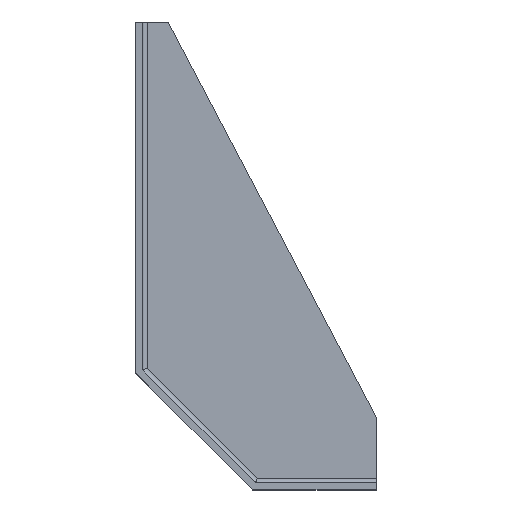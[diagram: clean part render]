
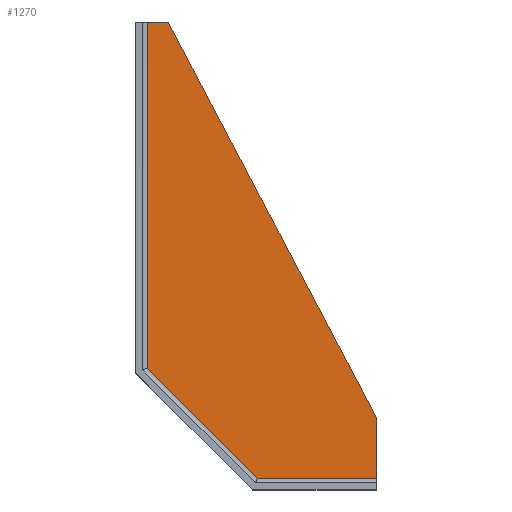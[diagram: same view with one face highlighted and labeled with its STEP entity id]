
A CAD part, top view. The second image highlights one B-rep face of the part: STEP entity #1270.
In plain terms, the highlighted planar face has unit normal (0, 0, 1).
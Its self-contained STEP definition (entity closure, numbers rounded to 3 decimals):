
#19 = VECTOR ( 'NONE', #870, 1000. ) ;
#36 = DIRECTION ( 'NONE',  ( -1., 0., 0. ) ) ;
#53 = CARTESIAN_POINT ( 'NONE',  ( -89., 200., 3. ) ) ;
#141 = EDGE_CURVE ( 'NONE', #865, #1192, #276, .T. ) ;
#156 = LINE ( 'NONE', #638, #1174 ) ;
#172 = LINE ( 'NONE', #1083, #579 ) ;
#173 = EDGE_LOOP ( 'NONE', ( #559, #1020, #453, #1133, #653, #708 ) ) ;
#175 = DIRECTION ( 'NONE',  ( 0., -1., 0. ) ) ;
#195 = DIRECTION ( 'NONE',  ( 0., 1., 0. ) ) ;
#274 = CARTESIAN_POINT ( 'NONE',  ( 0., 5., 3. ) ) ;
#276 = LINE ( 'NONE', #1196, #683 ) ;
#304 = DIRECTION ( 'NONE',  ( 1., 0., 0. ) ) ;
#313 = DIRECTION ( 'NONE',  ( -1., 0., 0. ) ) ;
#330 = CARTESIAN_POINT ( 'NONE',  ( -98., 52.071, 3. ) ) ;
#437 = LINE ( 'NONE', #53, #19 ) ;
#440 = AXIS2_PLACEMENT_3D ( 'NONE', #919, #808, #313 ) ;
#453 = ORIENTED_EDGE ( 'NONE', *, *, #555, .T. ) ;
#461 = VERTEX_POINT ( 'NONE', #961 ) ;
#512 = VERTEX_POINT ( 'NONE', #556 ) ;
#516 = PLANE ( 'NONE',  #440 ) ;
#555 = EDGE_CURVE ( 'NONE', #1192, #461, #172, .T. ) ;
#556 = CARTESIAN_POINT ( 'NONE',  ( -98., 200., 3. ) ) ;
#557 = VECTOR ( 'NONE', #175, 1000. ) ;
#559 = ORIENTED_EDGE ( 'NONE', *, *, #1112, .T. ) ;
#576 = FACE_OUTER_BOUND ( 'NONE', #173, .T. ) ;
#579 = VECTOR ( 'NONE', #195, 1000. ) ;
#638 = CARTESIAN_POINT ( 'NONE',  ( -103., 200., 3. ) ) ;
#653 = ORIENTED_EDGE ( 'NONE', *, *, #813, .T. ) ;
#676 = VERTEX_POINT ( 'NONE', #1095 ) ;
#683 = VECTOR ( 'NONE', #304, 1000. ) ;
#708 = ORIENTED_EDGE ( 'NONE', *, *, #1169, .T. ) ;
#766 = LINE ( 'NONE', #984, #557 ) ;
#808 = DIRECTION ( 'NONE',  ( 0., 0., -1. ) ) ;
#813 = EDGE_CURVE ( 'NONE', #676, #512, #156, .T. ) ;
#829 = LINE ( 'NONE', #1161, #1207 ) ;
#835 = VERTEX_POINT ( 'NONE', #330 ) ;
#865 = VERTEX_POINT ( 'NONE', #1026 ) ;
#870 = DIRECTION ( 'NONE',  ( -0.466, 0.885, 0. ) ) ;
#919 = CARTESIAN_POINT ( 'NONE',  ( 0., 0., 3. ) ) ;
#945 = EDGE_CURVE ( 'NONE', #461, #676, #437, .T. ) ;
#961 = CARTESIAN_POINT ( 'NONE',  ( 0., 31., 3. ) ) ;
#984 = CARTESIAN_POINT ( 'NONE',  ( -98., 51.243, 3. ) ) ;
#1020 = ORIENTED_EDGE ( 'NONE', *, *, #141, .T. ) ;
#1026 = CARTESIAN_POINT ( 'NONE',  ( -50.929, 5., 3. ) ) ;
#1083 = CARTESIAN_POINT ( 'NONE',  ( 0., 31., 3. ) ) ;
#1095 = CARTESIAN_POINT ( 'NONE',  ( -89., 200., 3. ) ) ;
#1112 = EDGE_CURVE ( 'NONE', #835, #865, #829, .T. ) ;
#1133 = ORIENTED_EDGE ( 'NONE', *, *, #945, .T. ) ;
#1161 = CARTESIAN_POINT ( 'NONE',  ( -50.343, 4.414, 3. ) ) ;
#1169 = EDGE_CURVE ( 'NONE', #512, #835, #766, .T. ) ;
#1174 = VECTOR ( 'NONE', #36, 1000. ) ;
#1192 = VERTEX_POINT ( 'NONE', #274 ) ;
#1196 = CARTESIAN_POINT ( 'NONE',  ( 0., 5., 3. ) ) ;
#1207 = VECTOR ( 'NONE', #1264, 1000. ) ;
#1264 = DIRECTION ( 'NONE',  ( 0.707, -0.707, 0. ) ) ;
#1270 = ADVANCED_FACE ( 'NONE', ( #576 ), #516, .F. ) ;
